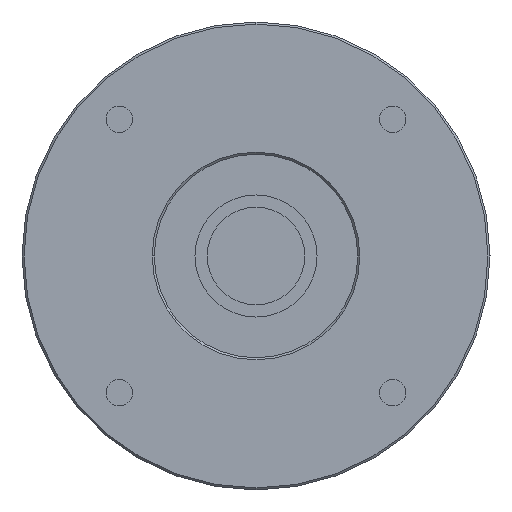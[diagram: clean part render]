
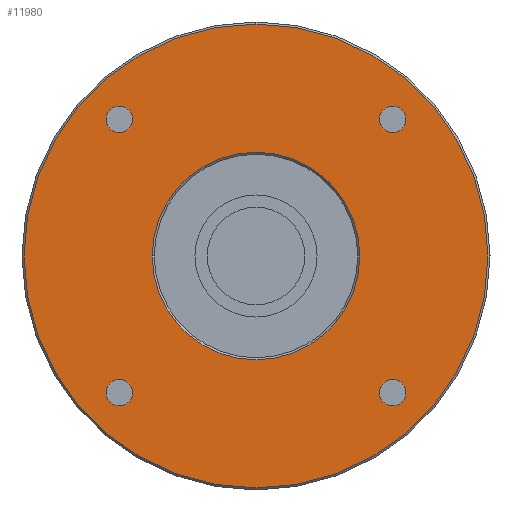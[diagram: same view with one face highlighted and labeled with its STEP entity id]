
A CAD part, left-side view. The second image highlights one B-rep face of the part: STEP entity #11980.
In plain terms, the highlighted planar face has unit normal (-1, 0, 0) as drawn and (0, 0, -1) by its records, which use the part's own axes.
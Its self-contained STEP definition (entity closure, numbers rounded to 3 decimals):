
#8790=CARTESIAN_POINT('',(-30.338,33.588,-66.4));
#8800=VERTEX_POINT('',#8790);
#8830=CARTESIAN_POINT('',(-33.588,33.588,-66.4));
#8840=DIRECTION('',(0.,0.,-1.));
#8850=DIRECTION('',(1.,0.,0.));
#8860=AXIS2_PLACEMENT_3D('',#8830,#8840,#8850);
#8870=CIRCLE('',#8860,3.25);
#8880=CARTESIAN_POINT('',(-36.838,33.588,-66.4));
#8890=VERTEX_POINT('',#8880);
#8900=EDGE_CURVE('',#8890,#8800,#8870,.T.);
#9210=CARTESIAN_POINT('',(36.838,33.588,-66.4));
#9220=VERTEX_POINT('',#9210);
#9250=CARTESIAN_POINT('',(33.588,33.588,-66.4));
#9260=DIRECTION('',(0.,0.,-1.));
#9270=DIRECTION('',(1.,0.,0.));
#9280=AXIS2_PLACEMENT_3D('',#9250,#9260,#9270);
#9290=CIRCLE('',#9280,3.25);
#9300=CARTESIAN_POINT('',(30.338,33.588,-66.4));
#9310=VERTEX_POINT('',#9300);
#9320=EDGE_CURVE('',#9310,#9220,#9290,.T.);
#11050=CARTESIAN_POINT('',(0.,57.,-66.4));
#11060=VERTEX_POINT('',#11050);
#11090=CARTESIAN_POINT('',(0.,0.,
-66.4));
#11100=DIRECTION('',(0.,0.,-1.));
#11110=DIRECTION('',(1.,0.,0.));
#11120=AXIS2_PLACEMENT_3D('',#11090,#11100,#11110);
#11130=CIRCLE('',#11120,57.);
#11140=CARTESIAN_POINT('',(57.,0.,-66.4));
#11150=VERTEX_POINT('',#11140);
#11160=EDGE_CURVE('',#11060,#11150,#11130,.T.);
#11180=CARTESIAN_POINT('',(0.,-57.,-66.4));
#11190=VERTEX_POINT('',#11180);
#11200=EDGE_CURVE('',#11150,#11190,#11130,.T.);
#11320=CARTESIAN_POINT('',(0.,0.,
-66.4));
#11330=DIRECTION('',(0.,0.,-1.));
#11340=DIRECTION('',(1.,0.,0.));
#11350=AXIS2_PLACEMENT_3D('',#11320,#11330,#11340);
#11360=PLANE('',#11350);
#11370=EDGE_CURVE('',#11190,#11060,#11130,.T.);
#11380=ORIENTED_EDGE('',*,*,#11370,.T.);
#11390=ORIENTED_EDGE('',*,*,#11200,.T.);
#11400=ORIENTED_EDGE('',*,*,#11160,.T.);
#11410=EDGE_LOOP('',(#11400,#11390,#11380));
#11420=FACE_OUTER_BOUND('',#11410,.T.);
#11430=CARTESIAN_POINT('',(0.,0.,
-66.4));
#11440=DIRECTION('',(0.,0.,-1.));
#11450=DIRECTION('',(1.,0.,0.));
#11460=AXIS2_PLACEMENT_3D('',#11430,#11440,#11450);
#11470=CIRCLE('',#11460,25.5);
#11480=CARTESIAN_POINT('',(25.5,0.,-66.4));
#11490=VERTEX_POINT('',#11480);
#11500=CARTESIAN_POINT('',(-25.5,0.,-66.4));
#11510=VERTEX_POINT('',#11500);
#11520=EDGE_CURVE('',#11490,#11510,#11470,.T.);
#11530=ORIENTED_EDGE('',*,*,#11520,.F.);
#11540=EDGE_CURVE('',#11510,#11490,#11470,.T.);
#11550=ORIENTED_EDGE('',*,*,#11540,.F.);
#11560=EDGE_LOOP('',(#11550,#11530));
#11570=FACE_BOUND('',#11560,.T.);
#11580=CARTESIAN_POINT('',(33.588,-33.588,-66.4));
#11590=DIRECTION('',(0.,0.,-1.));
#11600=DIRECTION('',(1.,0.,0.));
#11610=AXIS2_PLACEMENT_3D('',#11580,#11590,#11600);
#11620=CIRCLE('',#11610,3.25);
#11630=CARTESIAN_POINT('',(36.838,-33.588,-66.4));
#11640=VERTEX_POINT('',#11630);
#11650=CARTESIAN_POINT('',(30.338,-33.588,-66.4));
#11660=VERTEX_POINT('',#11650);
#11670=EDGE_CURVE('',#11640,#11660,#11620,.T.);
#11680=ORIENTED_EDGE('',*,*,#11670,.F.);
#11690=EDGE_CURVE('',#11660,#11640,#11620,.T.);
#11700=ORIENTED_EDGE('',*,*,#11690,.F.);
#11710=EDGE_LOOP('',(#11700,#11680));
#11720=FACE_BOUND('',#11710,.T.);
#11730=EDGE_CURVE('',#9220,#9310,#9290,.T.);
#11740=ORIENTED_EDGE('',*,*,#11730,.F.);
#11750=ORIENTED_EDGE('',*,*,#9320,.F.);
#11760=EDGE_LOOP('',(#11750,#11740));
#11770=FACE_BOUND('',#11760,.T.);
#11780=EDGE_CURVE('',#8800,#8890,#8870,.T.);
#11790=ORIENTED_EDGE('',*,*,#11780,.F.);
#11800=ORIENTED_EDGE('',*,*,#8900,.F.);
#11810=EDGE_LOOP('',(#11800,#11790));
#11820=FACE_BOUND('',#11810,.T.);
#11830=CARTESIAN_POINT('',(-33.588,-33.588,-66.4));
#11840=DIRECTION('',(0.,0.,-1.));
#11850=DIRECTION('',(1.,0.,0.));
#11860=AXIS2_PLACEMENT_3D('',#11830,#11840,#11850);
#11870=CIRCLE('',#11860,3.25);
#11880=CARTESIAN_POINT('',(-30.338,-33.588,-66.4));
#11890=VERTEX_POINT('',#11880);
#11900=CARTESIAN_POINT('',(-36.838,-33.588,-66.4));
#11910=VERTEX_POINT('',#11900);
#11920=EDGE_CURVE('',#11890,#11910,#11870,.T.);
#11930=ORIENTED_EDGE('',*,*,#11920,.F.);
#11940=EDGE_CURVE('',#11910,#11890,#11870,.T.);
#11950=ORIENTED_EDGE('',*,*,#11940,.F.);
#11960=EDGE_LOOP('',(#11950,#11930));
#11970=FACE_BOUND('',#11960,.T.);
#11980=ADVANCED_FACE('',(#11420,#11570,#11720,#11770,#11820,#11970),
#11360,.T.);
